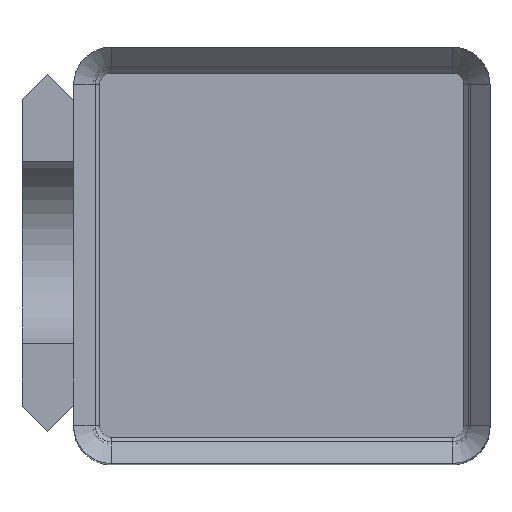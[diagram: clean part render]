
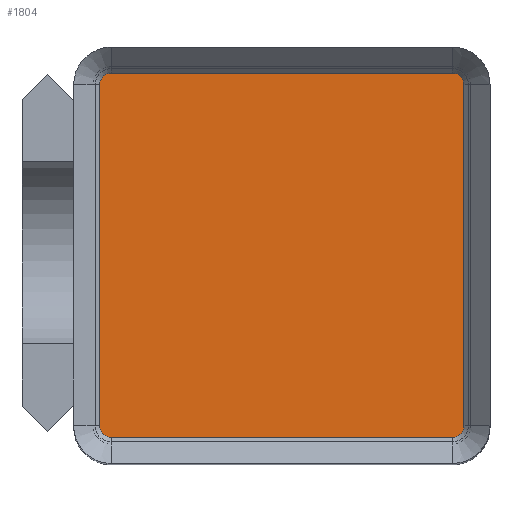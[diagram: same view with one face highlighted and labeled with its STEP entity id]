
A CAD part, top view. The second image highlights one B-rep face of the part: STEP entity #1804.
In plain terms, the highlighted planar face has unit normal (0, 0, 1).
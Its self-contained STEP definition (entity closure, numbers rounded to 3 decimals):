
#49=CIRCLE('',#1924,2.55);
#52=CIRCLE('',#1931,2.55);
#55=CIRCLE('',#1938,2.55);
#58=CIRCLE('',#1945,2.55);
#187=FACE_OUTER_BOUND('',#314,.T.);
#314=EDGE_LOOP('',(#1337,#1338,#1339,#1340,#1341,#1342,#1343,#1344));
#447=LINE('',#2773,#634);
#454=LINE('',#2793,#641);
#461=LINE('',#2813,#648);
#468=LINE('',#2831,#655);
#634=VECTOR('',#2184,10.);
#641=VECTOR('',#2205,10.);
#648=VECTOR('',#2226,10.);
#655=VECTOR('',#2247,10.);
#806=VERTEX_POINT('',#2755);
#808=VERTEX_POINT('',#2758);
#812=VERTEX_POINT('',#2770);
#815=VERTEX_POINT('',#2780);
#818=VERTEX_POINT('',#2790);
#821=VERTEX_POINT('',#2800);
#824=VERTEX_POINT('',#2810);
#827=VERTEX_POINT('',#2820);
#959=EDGE_CURVE('',#806,#808,#49,.T.);
#966=EDGE_CURVE('',#812,#806,#447,.T.);
#971=EDGE_CURVE('',#815,#812,#52,.T.);
#976=EDGE_CURVE('',#818,#815,#454,.T.);
#981=EDGE_CURVE('',#821,#818,#55,.T.);
#986=EDGE_CURVE('',#824,#821,#461,.T.);
#991=EDGE_CURVE('',#827,#824,#58,.T.);
#996=EDGE_CURVE('',#808,#827,#468,.T.);
#1337=ORIENTED_EDGE('',*,*,#986,.F.);
#1338=ORIENTED_EDGE('',*,*,#991,.F.);
#1339=ORIENTED_EDGE('',*,*,#996,.F.);
#1340=ORIENTED_EDGE('',*,*,#959,.F.);
#1341=ORIENTED_EDGE('',*,*,#966,.F.);
#1342=ORIENTED_EDGE('',*,*,#971,.F.);
#1343=ORIENTED_EDGE('',*,*,#976,.F.);
#1344=ORIENTED_EDGE('',*,*,#981,.F.);
#1721=PLANE('',#1963);
#1804=ADVANCED_FACE('',(#187),#1721,.F.);
#1924=AXIS2_PLACEMENT_3D('',#2759,#2170,#2171);
#1931=AXIS2_PLACEMENT_3D('',#2783,#2193,#2194);
#1938=AXIS2_PLACEMENT_3D('',#2803,#2214,#2215);
#1945=AXIS2_PLACEMENT_3D('',#2823,#2235,#2236);
#1963=AXIS2_PLACEMENT_3D('',#2866,#2287,#2288);
#2170=DIRECTION('center_axis',(0.,0.,-1.));
#2171=DIRECTION('ref_axis',(0.,-1.,0.));
#2184=DIRECTION('',(-1.,0.,0.));
#2193=DIRECTION('center_axis',(0.,0.,-1.));
#2194=DIRECTION('ref_axis',(1.,0.,0.));
#2205=DIRECTION('',(0.,-1.,0.));
#2214=DIRECTION('center_axis',(0.,0.,-1.));
#2215=DIRECTION('ref_axis',(0.,1.,0.));
#2226=DIRECTION('',(1.,0.,0.));
#2235=DIRECTION('center_axis',(0.,0.,-1.));
#2236=DIRECTION('ref_axis',(-1.,0.,0.));
#2247=DIRECTION('',(0.,1.,0.));
#2287=DIRECTION('center_axis',(0.,0.,-1.));
#2288=DIRECTION('ref_axis',(-1.,0.,0.));
#2755=CARTESIAN_POINT('',(4.,1.45,6.2));
#2758=CARTESIAN_POINT('',(1.45,4.,6.2));
#2759=CARTESIAN_POINT('Origin',(4.,4.,6.2));
#2770=CARTESIAN_POINT('',(38.,1.45,6.2));
#2773=CARTESIAN_POINT('',(38.,1.45,6.2));
#2780=CARTESIAN_POINT('',(40.55,4.,6.2));
#2783=CARTESIAN_POINT('Origin',(38.,4.,6.2));
#2790=CARTESIAN_POINT('',(40.55,38.,6.2));
#2793=CARTESIAN_POINT('',(40.55,38.,6.2));
#2800=CARTESIAN_POINT('',(38.,40.55,6.2));
#2803=CARTESIAN_POINT('Origin',(38.,38.,6.2));
#2810=CARTESIAN_POINT('',(4.,40.55,6.2));
#2813=CARTESIAN_POINT('',(4.,40.55,6.2));
#2820=CARTESIAN_POINT('',(1.45,38.,6.2));
#2823=CARTESIAN_POINT('Origin',(4.,38.,6.2));
#2831=CARTESIAN_POINT('',(1.45,4.,6.2));
#2866=CARTESIAN_POINT('Origin',(21.,21.,6.2));
